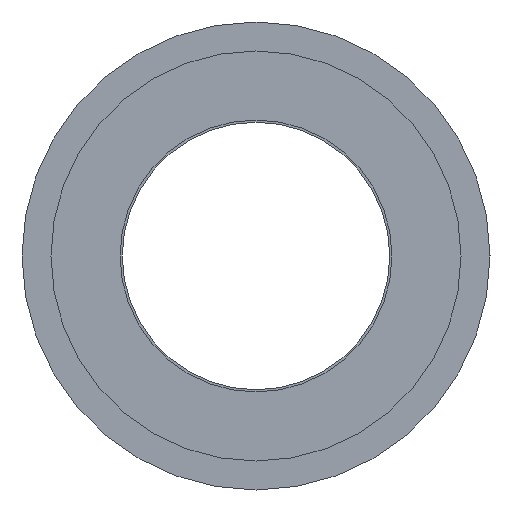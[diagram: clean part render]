
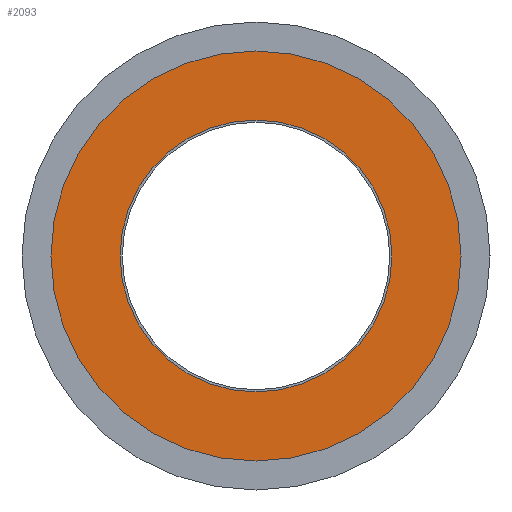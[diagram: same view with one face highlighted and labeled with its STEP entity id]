
A CAD part, left-side view. The second image highlights one B-rep face of the part: STEP entity #2093.
In plain terms, the highlighted planar face has unit normal (-1, 0, 0).
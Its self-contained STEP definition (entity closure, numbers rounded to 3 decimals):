
#1877 = CYLINDRICAL_SURFACE('',#1878,6.1);
#1878 = AXIS2_PLACEMENT_3D('',#1879,#1880,#1881);
#1879 = CARTESIAN_POINT('',(-27.41,0.,0.));
#1880 = DIRECTION('',(1.,0.,0.));
#1881 = DIRECTION('',(-0.,1.,0.));
#1902 = VERTEX_POINT('',#1903);
#1903 = CARTESIAN_POINT('',(-27.71,-6.1,0.));
#1917 = CYLINDRICAL_SURFACE('',#1918,6.1);
#1918 = AXIS2_PLACEMENT_3D('',#1919,#1920,#1921);
#1919 = CARTESIAN_POINT('',(-27.41,0.,0.));
#1920 = DIRECTION('',(1.,0.,0.));
#1921 = DIRECTION('',(-0.,1.,0.));
#1929 = EDGE_CURVE('',#1902,#1930,#1932,.T.);
#1930 = VERTEX_POINT('',#1931);
#1931 = CARTESIAN_POINT('',(-27.71,6.1,0.));
#1932 = SURFACE_CURVE('',#1933,(#1938,#1945),.PCURVE_S1.);
#1933 = CIRCLE('',#1934,6.1);
#1934 = AXIS2_PLACEMENT_3D('',#1935,#1936,#1937);
#1935 = CARTESIAN_POINT('',(-27.71,0.,0.));
#1936 = DIRECTION('',(1.,0.,0.));
#1937 = DIRECTION('',(-0.,1.,0.));
#1938 = PCURVE('',#1877,#1939);
#1939 = DEFINITIONAL_REPRESENTATION('',(#1940),#1944);
#1940 = LINE('',#1941,#1942);
#1941 = CARTESIAN_POINT('',(0.,-0.3));
#1942 = VECTOR('',#1943,1.);
#1943 = DIRECTION('',(1.,0.));
#1944 = ( GEOMETRIC_REPRESENTATION_CONTEXT(2) 
PARAMETRIC_REPRESENTATION_CONTEXT() REPRESENTATION_CONTEXT('2D SPACE',''
  ) );
#1945 = PCURVE('',#1946,#1951);
#1946 = PLANE('',#1947);
#1947 = AXIS2_PLACEMENT_3D('',#1948,#1949,#1950);
#1948 = CARTESIAN_POINT('',(-27.71,7.925,0.));
#1949 = DIRECTION('',(-1.,0.,0.));
#1950 = DIRECTION('',(0.,-1.,0.));
#1951 = DEFINITIONAL_REPRESENTATION('',(#1952),#1960);
#1952 = ( BOUNDED_CURVE() B_SPLINE_CURVE(2,(#1953,#1954,#1955,#1956,
#1957,#1958,#1959),.UNSPECIFIED.,.T.,.F.) B_SPLINE_CURVE_WITH_KNOTS((1,2
    ,2,2,2,1),(-2.094,0.,2.094,4.189,
6.283,8.378),.UNSPECIFIED.) CURVE() 
GEOMETRIC_REPRESENTATION_ITEM() RATIONAL_B_SPLINE_CURVE((1.,0.5,1.,0.5,
1.,0.5,1.)) REPRESENTATION_ITEM('') );
#1953 = CARTESIAN_POINT('',(1.825,0.));
#1954 = CARTESIAN_POINT('',(1.825,10.566));
#1955 = CARTESIAN_POINT('',(10.975,5.283));
#1956 = CARTESIAN_POINT('',(20.125,0.));
#1957 = CARTESIAN_POINT('',(10.975,-5.283));
#1958 = CARTESIAN_POINT('',(1.825,-10.566));
#1959 = CARTESIAN_POINT('',(1.825,0.));
#1960 = ( GEOMETRIC_REPRESENTATION_CONTEXT(2) 
PARAMETRIC_REPRESENTATION_CONTEXT() REPRESENTATION_CONTEXT('2D SPACE',''
  ) );
#1987 = VERTEX_POINT('',#1988);
#1988 = CARTESIAN_POINT('',(-27.71,9.75,0.));
#1997 = CYLINDRICAL_SURFACE('',#1998,9.75);
#1998 = AXIS2_PLACEMENT_3D('',#1999,#2000,#2001);
#1999 = CARTESIAN_POINT('',(-27.41,0.,0.));
#2000 = DIRECTION('',(1.,0.,0.));
#2001 = DIRECTION('',(-0.,1.,0.));
#2009 = CYLINDRICAL_SURFACE('',#2010,9.75);
#2010 = AXIS2_PLACEMENT_3D('',#2011,#2012,#2013);
#2011 = CARTESIAN_POINT('',(-27.41,0.,0.));
#2012 = DIRECTION('',(1.,0.,0.));
#2013 = DIRECTION('',(-0.,1.,0.));
#2021 = EDGE_CURVE('',#1987,#2022,#2024,.T.);
#2022 = VERTEX_POINT('',#2023);
#2023 = CARTESIAN_POINT('',(-27.71,-9.75,0.));
#2024 = SURFACE_CURVE('',#2025,(#2030,#2037),.PCURVE_S1.);
#2025 = CIRCLE('',#2026,9.75);
#2026 = AXIS2_PLACEMENT_3D('',#2027,#2028,#2029);
#2027 = CARTESIAN_POINT('',(-27.71,0.,0.));
#2028 = DIRECTION('',(1.,0.,0.));
#2029 = DIRECTION('',(-0.,1.,0.));
#2030 = PCURVE('',#1997,#2031);
#2031 = DEFINITIONAL_REPRESENTATION('',(#2032),#2036);
#2032 = LINE('',#2033,#2034);
#2033 = CARTESIAN_POINT('',(0.,-0.3));
#2034 = VECTOR('',#2035,1.);
#2035 = DIRECTION('',(1.,0.));
#2036 = ( GEOMETRIC_REPRESENTATION_CONTEXT(2) 
PARAMETRIC_REPRESENTATION_CONTEXT() REPRESENTATION_CONTEXT('2D SPACE',''
  ) );
#2037 = PCURVE('',#1946,#2038);
#2038 = DEFINITIONAL_REPRESENTATION('',(#2039),#2047);
#2039 = ( BOUNDED_CURVE() B_SPLINE_CURVE(2,(#2040,#2041,#2042,#2043,
#2044,#2045,#2046),.UNSPECIFIED.,.T.,.F.) B_SPLINE_CURVE_WITH_KNOTS((1,2
    ,2,2,2,1),(-2.094,0.,2.094,4.189,
6.283,8.378),.UNSPECIFIED.) CURVE() 
GEOMETRIC_REPRESENTATION_ITEM() RATIONAL_B_SPLINE_CURVE((1.,0.5,1.,0.5,
1.,0.5,1.)) REPRESENTATION_ITEM('') );
#2040 = CARTESIAN_POINT('',(-1.825,0.));
#2041 = CARTESIAN_POINT('',(-1.825,16.887));
#2042 = CARTESIAN_POINT('',(12.8,8.444));
#2043 = CARTESIAN_POINT('',(27.425,0.));
#2044 = CARTESIAN_POINT('',(12.8,-8.444));
#2045 = CARTESIAN_POINT('',(-1.825,-16.887));
#2046 = CARTESIAN_POINT('',(-1.825,0.));
#2047 = ( GEOMETRIC_REPRESENTATION_CONTEXT(2) 
PARAMETRIC_REPRESENTATION_CONTEXT() REPRESENTATION_CONTEXT('2D SPACE',''
  ) );
#2093 = ADVANCED_FACE('',(#2094,#2123),#1946,.T.);
#2094 = FACE_BOUND('',#2095,.T.);
#2095 = EDGE_LOOP('',(#2096,#2097));
#2096 = ORIENTED_EDGE('',*,*,#2021,.F.);
#2097 = ORIENTED_EDGE('',*,*,#2098,.F.);
#2098 = EDGE_CURVE('',#2022,#1987,#2099,.T.);
#2099 = SURFACE_CURVE('',#2100,(#2105,#2116),.PCURVE_S1.);
#2100 = CIRCLE('',#2101,9.75);
#2101 = AXIS2_PLACEMENT_3D('',#2102,#2103,#2104);
#2102 = CARTESIAN_POINT('',(-27.71,0.,0.));
#2103 = DIRECTION('',(1.,0.,0.));
#2104 = DIRECTION('',(-0.,1.,0.));
#2105 = PCURVE('',#1946,#2106);
#2106 = DEFINITIONAL_REPRESENTATION('',(#2107),#2115);
#2107 = ( BOUNDED_CURVE() B_SPLINE_CURVE(2,(#2108,#2109,#2110,#2111,
#2112,#2113,#2114),.UNSPECIFIED.,.T.,.F.) B_SPLINE_CURVE_WITH_KNOTS((1,2
    ,2,2,2,1),(-2.094,0.,2.094,4.189,
6.283,8.378),.UNSPECIFIED.) CURVE() 
GEOMETRIC_REPRESENTATION_ITEM() RATIONAL_B_SPLINE_CURVE((1.,0.5,1.,0.5,
1.,0.5,1.)) REPRESENTATION_ITEM('') );
#2108 = CARTESIAN_POINT('',(-1.825,0.));
#2109 = CARTESIAN_POINT('',(-1.825,16.887));
#2110 = CARTESIAN_POINT('',(12.8,8.444));
#2111 = CARTESIAN_POINT('',(27.425,0.));
#2112 = CARTESIAN_POINT('',(12.8,-8.444));
#2113 = CARTESIAN_POINT('',(-1.825,-16.887));
#2114 = CARTESIAN_POINT('',(-1.825,0.));
#2115 = ( GEOMETRIC_REPRESENTATION_CONTEXT(2) 
PARAMETRIC_REPRESENTATION_CONTEXT() REPRESENTATION_CONTEXT('2D SPACE',''
  ) );
#2116 = PCURVE('',#2009,#2117);
#2117 = DEFINITIONAL_REPRESENTATION('',(#2118),#2122);
#2118 = LINE('',#2119,#2120);
#2119 = CARTESIAN_POINT('',(0.,-0.3));
#2120 = VECTOR('',#2121,1.);
#2121 = DIRECTION('',(1.,0.));
#2122 = ( GEOMETRIC_REPRESENTATION_CONTEXT(2) 
PARAMETRIC_REPRESENTATION_CONTEXT() REPRESENTATION_CONTEXT('2D SPACE',''
  ) );
#2123 = FACE_BOUND('',#2124,.T.);
#2124 = EDGE_LOOP('',(#2125,#2151));
#2125 = ORIENTED_EDGE('',*,*,#2126,.T.);
#2126 = EDGE_CURVE('',#1930,#1902,#2127,.T.);
#2127 = SURFACE_CURVE('',#2128,(#2133,#2144),.PCURVE_S1.);
#2128 = CIRCLE('',#2129,6.1);
#2129 = AXIS2_PLACEMENT_3D('',#2130,#2131,#2132);
#2130 = CARTESIAN_POINT('',(-27.71,0.,0.));
#2131 = DIRECTION('',(1.,0.,0.));
#2132 = DIRECTION('',(-0.,1.,0.));
#2133 = PCURVE('',#1946,#2134);
#2134 = DEFINITIONAL_REPRESENTATION('',(#2135),#2143);
#2135 = ( BOUNDED_CURVE() B_SPLINE_CURVE(2,(#2136,#2137,#2138,#2139,
#2140,#2141,#2142),.UNSPECIFIED.,.T.,.F.) B_SPLINE_CURVE_WITH_KNOTS((1,2
    ,2,2,2,1),(-2.094,0.,2.094,4.189,
6.283,8.378),.UNSPECIFIED.) CURVE() 
GEOMETRIC_REPRESENTATION_ITEM() RATIONAL_B_SPLINE_CURVE((1.,0.5,1.,0.5,
1.,0.5,1.)) REPRESENTATION_ITEM('') );
#2136 = CARTESIAN_POINT('',(1.825,0.));
#2137 = CARTESIAN_POINT('',(1.825,10.566));
#2138 = CARTESIAN_POINT('',(10.975,5.283));
#2139 = CARTESIAN_POINT('',(20.125,0.));
#2140 = CARTESIAN_POINT('',(10.975,-5.283));
#2141 = CARTESIAN_POINT('',(1.825,-10.566));
#2142 = CARTESIAN_POINT('',(1.825,0.));
#2143 = ( GEOMETRIC_REPRESENTATION_CONTEXT(2) 
PARAMETRIC_REPRESENTATION_CONTEXT() REPRESENTATION_CONTEXT('2D SPACE',''
  ) );
#2144 = PCURVE('',#1917,#2145);
#2145 = DEFINITIONAL_REPRESENTATION('',(#2146),#2150);
#2146 = LINE('',#2147,#2148);
#2147 = CARTESIAN_POINT('',(0.,-0.3));
#2148 = VECTOR('',#2149,1.);
#2149 = DIRECTION('',(1.,0.));
#2150 = ( GEOMETRIC_REPRESENTATION_CONTEXT(2) 
PARAMETRIC_REPRESENTATION_CONTEXT() REPRESENTATION_CONTEXT('2D SPACE',''
  ) );
#2151 = ORIENTED_EDGE('',*,*,#1929,.T.);
